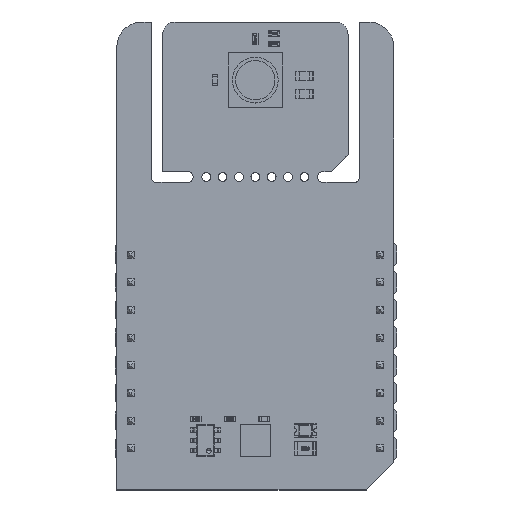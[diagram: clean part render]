
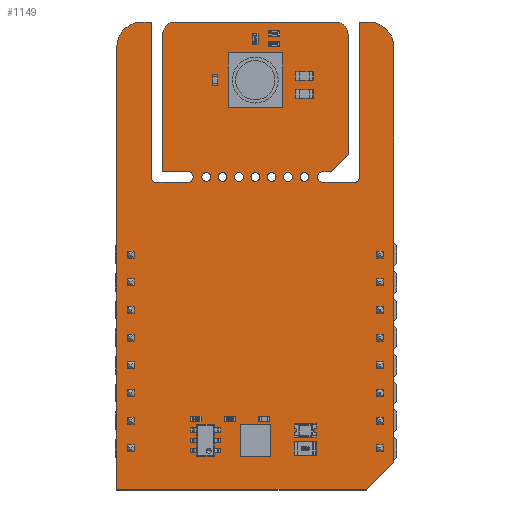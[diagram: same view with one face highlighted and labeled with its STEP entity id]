
A CAD part, top view. The second image highlights one B-rep face of the part: STEP entity #1149.
In plain terms, the highlighted planar face has unit normal (0, 0, 1).
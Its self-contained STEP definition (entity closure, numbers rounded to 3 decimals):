
#112 = VERTEX_POINT('',#113);
#113 = CARTESIAN_POINT('',(1.905,22.26,1.59));
#119 = EDGE_CURVE('',#112,#120,#122,.T.);
#120 = VERTEX_POINT('',#121);
#121 = CARTESIAN_POINT('',(2.305,21.86,1.59));
#122 = CIRCLE('',#123,0.399);
#123 = AXIS2_PLACEMENT_3D('',#124,#125,#126);
#124 = CARTESIAN_POINT('',(2.304,22.259,1.59));
#125 = DIRECTION('',(0.,0.,1.));
#126 = DIRECTION('',(-1.,0.001,0.));
#152 = EDGE_CURVE('',#120,#153,#155,.T.);
#153 = VERTEX_POINT('',#154);
#154 = CARTESIAN_POINT('',(5.23,21.86,1.59));
#155 = LINE('',#156,#157);
#156 = CARTESIAN_POINT('',(2.305,21.86,1.59));
#157 = VECTOR('',#158,1.);
#158 = DIRECTION('',(1.,0.,0.));
#183 = EDGE_CURVE('',#153,#184,#186,.T.);
#184 = VERTEX_POINT('',#185);
#185 = CARTESIAN_POINT('',(5.23,22.86,1.59));
#186 = CIRCLE('',#187,0.5);
#187 = AXIS2_PLACEMENT_3D('',#188,#189,#190);
#188 = CARTESIAN_POINT('',(5.23,22.36,1.59));
#189 = DIRECTION('',(0.,0.,1.));
#190 = DIRECTION('',(-0.,-1.,0.));
#216 = EDGE_CURVE('',#184,#217,#219,.T.);
#217 = VERTEX_POINT('',#218);
#218 = CARTESIAN_POINT('',(2.921,22.86,1.59));
#219 = LINE('',#220,#221);
#220 = CARTESIAN_POINT('',(5.23,22.86,1.59));
#221 = VECTOR('',#222,1.);
#222 = DIRECTION('',(-1.,0.,0.));
#247 = EDGE_CURVE('',#217,#248,#250,.T.);
#248 = VERTEX_POINT('',#249);
#249 = CARTESIAN_POINT('',(2.921,35.433,1.59));
#250 = LINE('',#251,#252);
#251 = CARTESIAN_POINT('',(2.921,22.86,1.59));
#252 = VECTOR('',#253,1.);
#253 = DIRECTION('',(0.,1.,0.));
#278 = EDGE_CURVE('',#248,#279,#281,.T.);
#279 = VERTEX_POINT('',#280);
#280 = CARTESIAN_POINT('',(4.064,36.576,1.59));
#281 = CIRCLE('',#282,1.144);
#282 = AXIS2_PLACEMENT_3D('',#283,#284,#285);
#283 = CARTESIAN_POINT('',(4.065,35.432,1.59));
#284 = DIRECTION('',(0.,0.,-1.));
#285 = DIRECTION('',(-1.,0.001,0.));
#311 = EDGE_CURVE('',#279,#312,#314,.T.);
#312 = VERTEX_POINT('',#313);
#313 = CARTESIAN_POINT('',(18.796,36.576,1.59));
#314 = LINE('',#315,#316);
#315 = CARTESIAN_POINT('',(4.064,36.576,1.59));
#316 = VECTOR('',#317,1.);
#317 = DIRECTION('',(1.,0.,0.));
#342 = EDGE_CURVE('',#312,#343,#345,.T.);
#343 = VERTEX_POINT('',#344);
#344 = CARTESIAN_POINT('',(19.939,35.433,1.59));
#345 = CIRCLE('',#346,1.144);
#346 = AXIS2_PLACEMENT_3D('',#347,#348,#349);
#347 = CARTESIAN_POINT('',(18.795,35.432,1.59));
#348 = DIRECTION('',(0.,0.,-1.));
#349 = DIRECTION('',(0.001,1.,0.));
#375 = EDGE_CURVE('',#343,#376,#378,.T.);
#376 = VERTEX_POINT('',#377);
#377 = CARTESIAN_POINT('',(19.939,24.384,1.59));
#378 = LINE('',#379,#380);
#379 = CARTESIAN_POINT('',(19.939,35.433,1.59));
#380 = VECTOR('',#381,1.);
#381 = DIRECTION('',(0.,-1.,0.));
#406 = EDGE_CURVE('',#376,#407,#409,.T.);
#407 = VERTEX_POINT('',#408);
#408 = CARTESIAN_POINT('',(18.415,22.86,1.59));
#409 = LINE('',#410,#411);
#410 = CARTESIAN_POINT('',(19.939,24.384,1.59));
#411 = VECTOR('',#412,1.);
#412 = DIRECTION('',(-0.707,-0.707,0.));
#437 = EDGE_CURVE('',#407,#438,#440,.T.);
#438 = VERTEX_POINT('',#439);
#439 = CARTESIAN_POINT('',(17.63,22.86,1.59));
#440 = LINE('',#441,#442);
#441 = CARTESIAN_POINT('',(18.415,22.86,1.59));
#442 = VECTOR('',#443,1.);
#443 = DIRECTION('',(-1.,0.,0.));
#468 = EDGE_CURVE('',#438,#469,#471,.T.);
#469 = VERTEX_POINT('',#470);
#470 = CARTESIAN_POINT('',(17.63,21.86,1.59));
#471 = CIRCLE('',#472,0.5);
#472 = AXIS2_PLACEMENT_3D('',#473,#474,#475);
#473 = CARTESIAN_POINT('',(17.63,22.36,1.59));
#474 = DIRECTION('',(0.,-0.,1.));
#475 = DIRECTION('',(0.,1.,0.));
#501 = EDGE_CURVE('',#469,#502,#504,.T.);
#502 = VERTEX_POINT('',#503);
#503 = CARTESIAN_POINT('',(20.555,21.86,1.59));
#504 = LINE('',#505,#506);
#505 = CARTESIAN_POINT('',(17.63,21.86,1.59));
#506 = VECTOR('',#507,1.);
#507 = DIRECTION('',(1.,0.,0.));
#532 = EDGE_CURVE('',#502,#533,#535,.T.);
#533 = VERTEX_POINT('',#534);
#534 = CARTESIAN_POINT('',(20.955,22.26,1.59));
#535 = CIRCLE('',#536,0.399);
#536 = AXIS2_PLACEMENT_3D('',#537,#538,#539);
#537 = CARTESIAN_POINT('',(20.556,22.259,1.59));
#538 = DIRECTION('',(0.,0.,1.));
#539 = DIRECTION('',(-0.001,-1.,0.));
#565 = EDGE_CURVE('',#533,#566,#568,.T.);
#566 = VERTEX_POINT('',#567);
#567 = CARTESIAN_POINT('',(20.955,36.576,1.59));
#568 = LINE('',#569,#570);
#569 = CARTESIAN_POINT('',(20.955,22.26,1.59));
#570 = VECTOR('',#571,1.);
#571 = DIRECTION('',(0.,1.,0.));
#596 = EDGE_CURVE('',#566,#597,#599,.T.);
#597 = VERTEX_POINT('',#598);
#598 = CARTESIAN_POINT('',(21.844,36.576,1.59));
#599 = LINE('',#600,#601);
#600 = CARTESIAN_POINT('',(20.955,36.576,1.59));
#601 = VECTOR('',#602,1.);
#602 = DIRECTION('',(1.,0.,0.));
#627 = EDGE_CURVE('',#597,#628,#630,.T.);
#628 = VERTEX_POINT('',#629);
#629 = CARTESIAN_POINT('',(24.13,34.29,1.59));
#630 = CIRCLE('',#631,2.288);
#631 = AXIS2_PLACEMENT_3D('',#632,#633,#634);
#632 = CARTESIAN_POINT('',(21.842,34.288,1.59));
#633 = DIRECTION('',(0.,0.,-1.));
#634 = DIRECTION('',(0.001,1.,0.));
#660 = EDGE_CURVE('',#628,#661,#663,.T.);
#661 = VERTEX_POINT('',#662);
#662 = CARTESIAN_POINT('',(24.13,-3.81,1.59));
#663 = LINE('',#664,#665);
#664 = CARTESIAN_POINT('',(24.13,34.29,1.59));
#665 = VECTOR('',#666,1.);
#666 = DIRECTION('',(0.,-1.,0.));
#691 = EDGE_CURVE('',#661,#692,#694,.T.);
#692 = VERTEX_POINT('',#693);
#693 = CARTESIAN_POINT('',(21.59,-6.35,1.59));
#694 = LINE('',#695,#696);
#695 = CARTESIAN_POINT('',(24.13,-3.81,1.59));
#696 = VECTOR('',#697,1.);
#697 = DIRECTION('',(-0.707,-0.707,0.));
#722 = EDGE_CURVE('',#692,#723,#725,.T.);
#723 = VERTEX_POINT('',#724);
#724 = CARTESIAN_POINT('',(-1.27,-6.35,1.59));
#725 = LINE('',#726,#727);
#726 = CARTESIAN_POINT('',(21.59,-6.35,1.59));
#727 = VECTOR('',#728,1.);
#728 = DIRECTION('',(-1.,0.,0.));
#753 = EDGE_CURVE('',#723,#754,#756,.T.);
#754 = VERTEX_POINT('',#755);
#755 = CARTESIAN_POINT('',(-1.27,34.29,1.59));
#756 = LINE('',#757,#758);
#757 = CARTESIAN_POINT('',(-1.27,-6.35,1.59));
#758 = VECTOR('',#759,1.);
#759 = DIRECTION('',(0.,1.,0.));
#784 = EDGE_CURVE('',#754,#785,#787,.T.);
#785 = VERTEX_POINT('',#786);
#786 = CARTESIAN_POINT('',(1.016,36.576,1.59));
#787 = CIRCLE('',#788,2.288);
#788 = AXIS2_PLACEMENT_3D('',#789,#790,#791);
#789 = CARTESIAN_POINT('',(1.018,34.288,1.59));
#790 = DIRECTION('',(0.,0.,-1.));
#791 = DIRECTION('',(-1.,0.001,0.));
#817 = EDGE_CURVE('',#785,#818,#820,.T.);
#818 = VERTEX_POINT('',#819);
#819 = CARTESIAN_POINT('',(1.905,36.576,1.59));
#820 = LINE('',#821,#822);
#821 = CARTESIAN_POINT('',(1.016,36.576,1.59));
#822 = VECTOR('',#823,1.);
#823 = DIRECTION('',(1.,0.,0.));
#848 = EDGE_CURVE('',#818,#112,#849,.T.);
#849 = LINE('',#850,#851);
#850 = CARTESIAN_POINT('',(1.905,36.576,1.59));
#851 = VECTOR('',#852,1.);
#852 = DIRECTION('',(0.,-1.,0.));
#872 = VERTEX_POINT('',#873);
#873 = CARTESIAN_POINT('',(10.33,22.36,1.59));
#879 = EDGE_CURVE('',#872,#872,#880,.T.);
#880 = CIRCLE('',#881,0.4);
#881 = AXIS2_PLACEMENT_3D('',#882,#883,#884);
#882 = CARTESIAN_POINT('',(9.93,22.36,1.59));
#883 = DIRECTION('',(0.,0.,1.));
#884 = DIRECTION('',(1.,0.,-0.));
#905 = VERTEX_POINT('',#906);
#906 = CARTESIAN_POINT('',(7.33,22.36,1.59));
#912 = EDGE_CURVE('',#905,#905,#913,.T.);
#913 = CIRCLE('',#914,0.4);
#914 = AXIS2_PLACEMENT_3D('',#915,#916,#917);
#915 = CARTESIAN_POINT('',(6.93,22.36,1.59));
#916 = DIRECTION('',(0.,0.,1.));
#917 = DIRECTION('',(1.,0.,-0.));
#938 = VERTEX_POINT('',#939);
#939 = CARTESIAN_POINT('',(8.83,22.36,1.59));
#945 = EDGE_CURVE('',#938,#938,#946,.T.);
#946 = CIRCLE('',#947,0.4);
#947 = AXIS2_PLACEMENT_3D('',#948,#949,#950);
#948 = CARTESIAN_POINT('',(8.43,22.36,1.59));
#949 = DIRECTION('',(0.,0.,1.));
#950 = DIRECTION('',(1.,0.,-0.));
#971 = VERTEX_POINT('',#972);
#972 = CARTESIAN_POINT('',(14.83,22.36,1.59));
#978 = EDGE_CURVE('',#971,#971,#979,.T.);
#979 = CIRCLE('',#980,0.4);
#980 = AXIS2_PLACEMENT_3D('',#981,#982,#983);
#981 = CARTESIAN_POINT('',(14.43,22.36,1.59));
#982 = DIRECTION('',(0.,0.,1.));
#983 = DIRECTION('',(1.,0.,-0.));
#1004 = VERTEX_POINT('',#1005);
#1005 = CARTESIAN_POINT('',(16.33,22.36,1.59));
#1011 = EDGE_CURVE('',#1004,#1004,#1012,.T.);
#1012 = CIRCLE('',#1013,0.4);
#1013 = AXIS2_PLACEMENT_3D('',#1014,#1015,#1016);
#1014 = CARTESIAN_POINT('',(15.93,22.36,1.59));
#1015 = DIRECTION('',(0.,0.,1.));
#1016 = DIRECTION('',(1.,0.,-0.));
#1037 = VERTEX_POINT('',#1038);
#1038 = CARTESIAN_POINT('',(11.83,22.36,1.59));
#1044 = EDGE_CURVE('',#1037,#1037,#1045,.T.);
#1045 = CIRCLE('',#1046,0.4);
#1046 = AXIS2_PLACEMENT_3D('',#1047,#1048,#1049);
#1047 = CARTESIAN_POINT('',(11.43,22.36,1.59));
#1048 = DIRECTION('',(0.,0.,1.));
#1049 = DIRECTION('',(1.,0.,-0.));
#1070 = VERTEX_POINT('',#1071);
#1071 = CARTESIAN_POINT('',(13.33,22.36,1.59));
#1077 = EDGE_CURVE('',#1070,#1070,#1078,.T.);
#1078 = CIRCLE('',#1079,0.4);
#1079 = AXIS2_PLACEMENT_3D('',#1080,#1081,#1082);
#1080 = CARTESIAN_POINT('',(12.93,22.36,1.59));
#1081 = DIRECTION('',(0.,0.,1.));
#1082 = DIRECTION('',(1.,0.,-0.));
#1149 = ADVANCED_FACE('',(#1150,#1176,#1179,#1182,#1185,#1188,#1191,
    #1194),#1197,.F.);
#1150 = FACE_BOUND('',#1151,.F.);
#1151 = EDGE_LOOP('',(#1152,#1153,#1154,#1155,#1156,#1157,#1158,#1159,
    #1160,#1161,#1162,#1163,#1164,#1165,#1166,#1167,#1168,#1169,#1170,
    #1171,#1172,#1173,#1174,#1175));
#1152 = ORIENTED_EDGE('',*,*,#119,.T.);
#1153 = ORIENTED_EDGE('',*,*,#152,.T.);
#1154 = ORIENTED_EDGE('',*,*,#183,.T.);
#1155 = ORIENTED_EDGE('',*,*,#216,.T.);
#1156 = ORIENTED_EDGE('',*,*,#247,.T.);
#1157 = ORIENTED_EDGE('',*,*,#278,.T.);
#1158 = ORIENTED_EDGE('',*,*,#311,.T.);
#1159 = ORIENTED_EDGE('',*,*,#342,.T.);
#1160 = ORIENTED_EDGE('',*,*,#375,.T.);
#1161 = ORIENTED_EDGE('',*,*,#406,.T.);
#1162 = ORIENTED_EDGE('',*,*,#437,.T.);
#1163 = ORIENTED_EDGE('',*,*,#468,.T.);
#1164 = ORIENTED_EDGE('',*,*,#501,.T.);
#1165 = ORIENTED_EDGE('',*,*,#532,.T.);
#1166 = ORIENTED_EDGE('',*,*,#565,.T.);
#1167 = ORIENTED_EDGE('',*,*,#596,.T.);
#1168 = ORIENTED_EDGE('',*,*,#627,.T.);
#1169 = ORIENTED_EDGE('',*,*,#660,.T.);
#1170 = ORIENTED_EDGE('',*,*,#691,.T.);
#1171 = ORIENTED_EDGE('',*,*,#722,.T.);
#1172 = ORIENTED_EDGE('',*,*,#753,.T.);
#1173 = ORIENTED_EDGE('',*,*,#784,.T.);
#1174 = ORIENTED_EDGE('',*,*,#817,.T.);
#1175 = ORIENTED_EDGE('',*,*,#848,.T.);
#1176 = FACE_BOUND('',#1177,.F.);
#1177 = EDGE_LOOP('',(#1178));
#1178 = ORIENTED_EDGE('',*,*,#879,.T.);
#1179 = FACE_BOUND('',#1180,.F.);
#1180 = EDGE_LOOP('',(#1181));
#1181 = ORIENTED_EDGE('',*,*,#912,.T.);
#1182 = FACE_BOUND('',#1183,.F.);
#1183 = EDGE_LOOP('',(#1184));
#1184 = ORIENTED_EDGE('',*,*,#945,.T.);
#1185 = FACE_BOUND('',#1186,.F.);
#1186 = EDGE_LOOP('',(#1187));
#1187 = ORIENTED_EDGE('',*,*,#978,.T.);
#1188 = FACE_BOUND('',#1189,.F.);
#1189 = EDGE_LOOP('',(#1190));
#1190 = ORIENTED_EDGE('',*,*,#1011,.T.);
#1191 = FACE_BOUND('',#1192,.F.);
#1192 = EDGE_LOOP('',(#1193));
#1193 = ORIENTED_EDGE('',*,*,#1044,.T.);
#1194 = FACE_BOUND('',#1195,.F.);
#1195 = EDGE_LOOP('',(#1196));
#1196 = ORIENTED_EDGE('',*,*,#1077,.T.);
#1197 = PLANE('',#1198);
#1198 = AXIS2_PLACEMENT_3D('',#1199,#1200,#1201);
#1199 = CARTESIAN_POINT('',(11.288,19.274,1.59));
#1200 = DIRECTION('',(-0.,-0.,-1.));
#1201 = DIRECTION('',(-1.,0.,0.));
